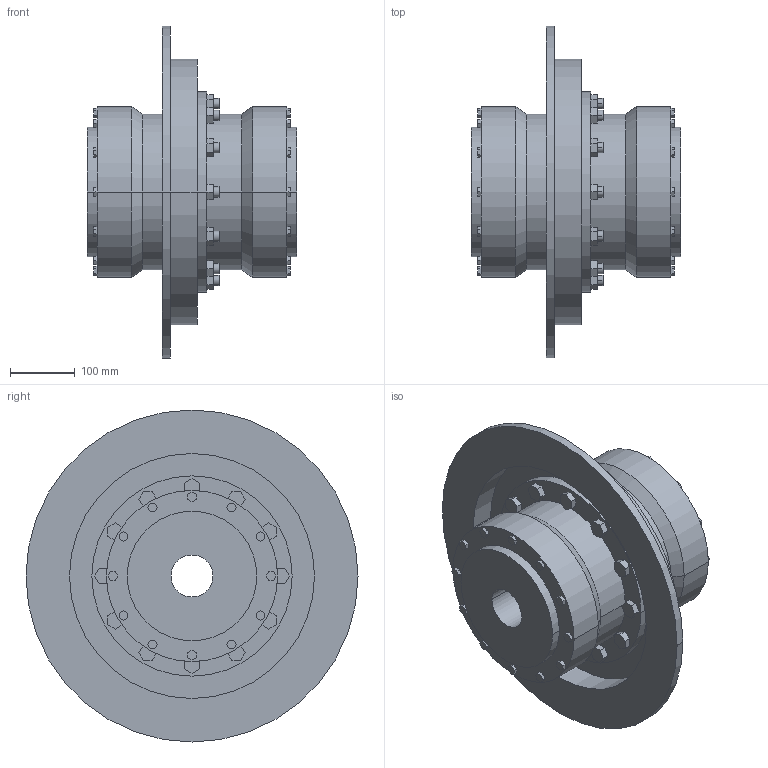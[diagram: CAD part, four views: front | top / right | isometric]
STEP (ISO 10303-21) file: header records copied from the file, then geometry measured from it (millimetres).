
FILE_DESCRIPTION((''),'2;1');
FILE_NAME('A19101500-0_ASM','2018-11-08T',('AB_Roschiwal'),('RENK AG'),'PRO/ENGINEER BY PARAMETRIC TECHNOLOGY CORPORATION, 2015440','PRO/ENGINEER BY PARAMETRIC TECHNOLOGY CORPORATION, 2015440','');
FILE_SCHEMA(('CONFIG_CONTROL_DESIGN'));
Length unit declared in the file: millimetre
Products named in the file (4): SBKD125_GEHAEUSE; SBKD125_NABE; SBKD125_BREMSSCHEIBE; A19101500-0_ASM
Assembly tree (4 placements, depth 2):
  A19101500-0_ASM
    SBKD125_GEHAEUSE
    SBKD125_NABE  x2
    SBKD125_BREMSSCHEIBE
Bounding box: 324 x 514 x 514 mm (x, y, z)
Volume: 17012442.5 mm3; surface area: 1503411.3 mm2
Topology: 4 solids, 4 shells, 470 faces, 1156 edges, 768 vertices
Faces by surface type: plane 370, cylinder 96, cone 4
Entity records: 13604 total; most frequent: CARTESIAN_POINT 2350, ORIENTED_EDGE 2264, DIRECTION 2240, EDGE_CURVE 1132, VECTOR 956, LINE 956, VERTEX_POINT 752, AXIS2_PLACEMENT_3D 642
